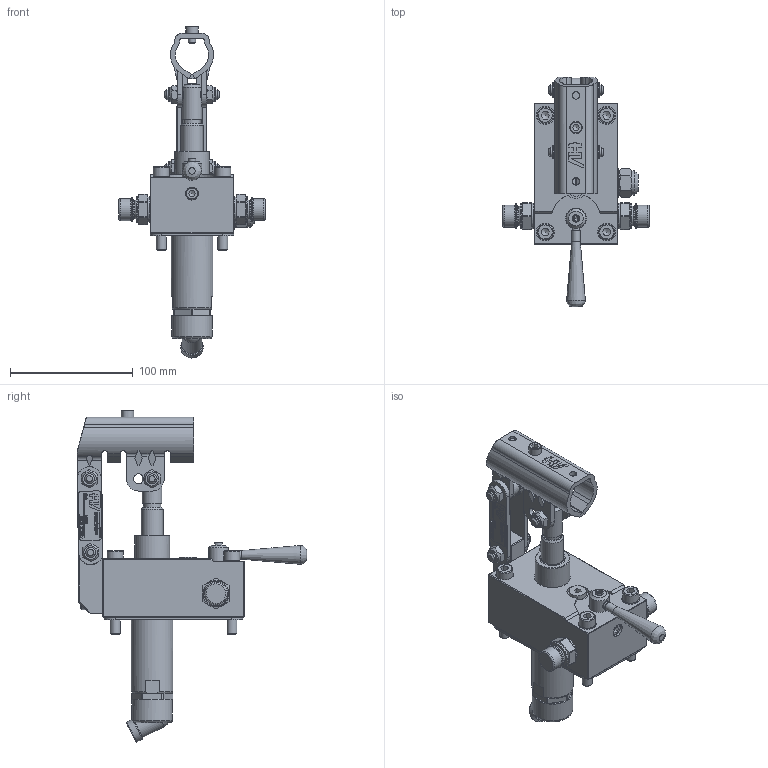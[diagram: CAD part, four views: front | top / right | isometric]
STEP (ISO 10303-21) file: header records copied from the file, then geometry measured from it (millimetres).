
FILE_DESCRIPTION((''),'2;1');
FILE_NAME('G:\HV_HYDRAULIC\AZIENDA_HV_HYDRAULIC\ARCHIVIO_DISEGNI\5_PRODOTTI_FINITI\1_POMPE_MANUALI\6056_PMD_25\6056.5500_PMD_25_byB_(HV)_(NBR)\6056.5500.stp','2024-03-04T09:02:39',('christian.scardovi'),(''),'Autodesk Inventor 2013','Autodesk Inventor 2013','');
FILE_SCHEMA(('AUTOMOTIVE_DESIGN { 1 0 10303 214 1 1 1 1 }'));
Length unit declared in the file: millimetre
Products named in the file (1): 6056.5500
Bounding box: 119 x 187 x 270.34 mm (x, y, z)
Surface area: 122641.9 mm2
Topology: 2 solids, 3 shells, 1398 faces, 3509 edges, 2249 vertices
Faces by surface type: plane 785, cylinder 254, bspline 155, cone 148, torus 52, sphere 4
Full cylindrical faces by diameter (mm): 4 x2, 4.917 x1, 5 x5, 6 x7, 6.5 x2, 7 x2, 8 x15, 8.917 x1, 9 x1, 9.2 x1, 10 x3, 10.376 x1, 10.5 x1, 11.05 x6, 12 x5, 13 x6, 13.2 x1, 14 x4, 14.5 x4, 14.95 x2, 15.9 x2, 16 x6, 16.6 x4, 17 x1, 17.5 x1, 17.6 x1, 18 x8, 19 x3, 20 x4, 21 x6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
Entity records: 42342 total; most frequent: CARTESIAN_POINT 10224, ORIENTED_EDGE 6322, DIRECTION 5793, EDGE_CURVE 3161, VERTEX_POINT 2148, AXIS2_PLACEMENT_3D 1983, VECTOR 1827, LINE 1827
